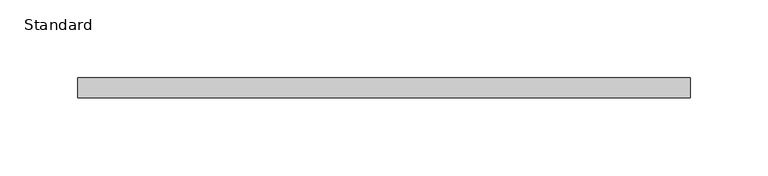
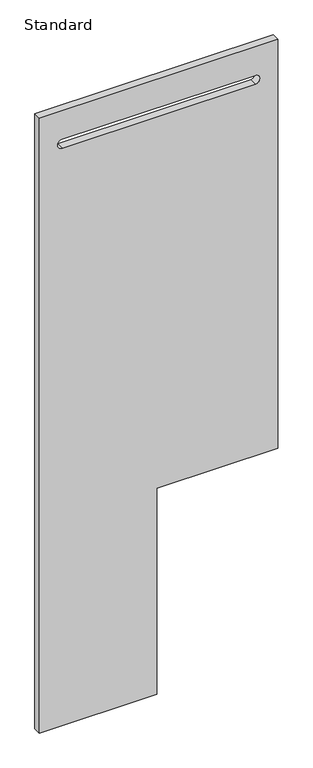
"""IFC4 building model written with IfcOpenShell, lengths in millimetres: furniture geometry, X_Locker-Duracube-Door : Standard."""

import ifcopenshell
import ifcopenshell.guid

model = None  # the IFC model being written
_history = None  # IfcOwnerHistory: only IFC2X3 demands one
_inside = {}  # id of a spatial element -> (the spatial element, [elements in it])
_under = {}  # id of a project, library or spatial element -> (it, [spatial elements below it])
_declared = {}  # id of a project -> (the project, [libraries it declares])
_typed = {}  # id of a type object -> (the type object, [elements of that type])
_made_of = {}  # id of a material, layer set ... -> (it, [elements and type objects made of it])


def new_model(schema):
    """Start an empty IFC model of exactly this schema.

    Asked for "IFC4X3", IfcOpenShell would pick the latest addendum, in which some entities
    have other attributes; the version numbers below select the first issue.
    IFC2X3 requires an IfcOwnerHistory on every rooted entity: one is made here for all.
    """
    global model, _history
    if schema == "IFC4X3":
        model = ifcopenshell.file(schema_version=(4, 3, 0, 0))
    else:
        model = ifcopenshell.file(schema=schema)
    _inside.clear()
    _under.clear()
    _declared.clear()
    _typed.clear()
    _made_of.clear()
    _history = None
    if model.schema == "IFC2X3":
        org = make("IfcOrganization", Name="unknown")
        user = make(
            "IfcPersonAndOrganization",
            ThePerson=make("IfcPerson", FamilyName="unknown"),
            TheOrganization=org,
        )
        app = make(
            "IfcApplication",
            ApplicationDeveloper=org,
            Version="unknown",
            ApplicationFullName="unknown",
            ApplicationIdentifier="unknown",
        )
        _history = make(
            "IfcOwnerHistory",
            OwningUser=user,
            OwningApplication=app,
            ChangeAction="ADDED",
            CreationDate=0,
        )
    return model


def make(cls, **values):
    """One entity of the class cls with the attributes given. An attribute that is None is left unset."""
    return model.create_entity(
        cls, **{name: value for name, value in values.items() if value is not None}
    )


def rooted(cls, **values):
    """An entity with a GlobalId (a new one), such as an element, a storey or a relation."""
    return make(cls, GlobalId=ifcopenshell.guid.new(), OwnerHistory=_history, **values)


def si_unit(unit_type, name, prefix=None):
    """IfcSIUnit, for example si_unit("LENGTHUNIT", "METRE", prefix="MILLI")."""
    return make("IfcSIUnit", UnitType=unit_type, Prefix=prefix, Name=name)


def assignment(units):
    """IfcUnitAssignment: the units of a project."""
    return None if units is None else make("IfcUnitAssignment", Units=units)


def point(xyz):
    """IfcCartesianPoint."""
    return None if xyz is None else make("IfcCartesianPoint", Coordinates=xyz)


def direction(xyz):
    """IfcDirection."""
    return None if xyz is None else make("IfcDirection", DirectionRatios=xyz)


def frame(location, z_axis=None, x_axis=None):
    """IfcAxis2Placement3D, a coordinate frame: its origin and axes. An axis left out is left unset."""
    return make(
        "IfcAxis2Placement3D",
        Location=point(location),
        Axis=direction(z_axis),
        RefDirection=direction(x_axis),
    )


def frame_2d(location, x_axis=None):
    """IfcAxis2Placement2D, a coordinate frame in the plane: its origin and x axis."""
    return make(
        "IfcAxis2Placement2D", Location=point(location), RefDirection=direction(x_axis)
    )


def origin():
    """The frame at (0, 0, 0) with its axes left unset."""
    return frame((0.0, 0.0, 0.0))


def place(relative_to, where):
    """IfcLocalPlacement: puts the frame where relative to a parent placement (None: the world)."""
    return make(
        "IfcLocalPlacement", PlacementRelTo=relative_to, RelativePlacement=where
    )


def context(
    kind, dimensions, precision=None, world=None, true_north=None, identifier=None
):
    """IfcGeometricRepresentationContext, for example the 3D "Model" context."""
    return make(
        "IfcGeometricRepresentationContext",
        ContextIdentifier=identifier,
        ContextType=kind,
        CoordinateSpaceDimension=dimensions,
        Precision=precision,
        WorldCoordinateSystem=world,
        TrueNorth=true_north,
    )


def project(units=None, contexts=None):
    """IfcProject with its units and contexts."""
    return rooted(
        "IfcProject",
        Name="project",
        RepresentationContexts=contexts,
        UnitsInContext=assignment(units),
    )


def spatial(cls, under=None, at=None, **own):
    """A site, building, storey or space (cls), placed at a placement, below another one or the project."""
    s = rooted(cls, ObjectPlacement=at, **own)
    if under is not None:
        _under.setdefault(under.id(), (under, []))[1].append(s)
    return s


def polyline(points):
    """IfcPolyline through the points."""
    return make("IfcPolyline", Points=[point(p) for p in points])


def circle_curve(where, radius):
    """IfcCircle in the frame where."""
    return make("IfcCircle", Position=where, Radius=radius)


def trimmed(basis, trim1, trim2, sense, master):
    """IfcTrimmedCurve: the piece of a basis curve between two trims."""
    return make(
        "IfcTrimmedCurve",
        BasisCurve=basis,
        Trim1=trim1,
        Trim2=trim2,
        SenseAgreement=sense,
        MasterRepresentation=master,
    )


def segment(curve, same_sense, transition):
    """IfcCompositeCurveSegment."""
    return make(
        "IfcCompositeCurveSegment",
        Transition=transition,
        SameSense=same_sense,
        ParentCurve=curve,
    )


def composite_curve(segments, self_intersect=None):
    """IfcCompositeCurve: segments joined end to end."""
    return make("IfcCompositeCurve", Segments=segments, SelfIntersect=self_intersect)


def outline(outer, holes=None, kind="AREA"):
    """IfcArbitraryClosedProfileDef: a profile drawn as a closed curve; with holes, ...WithVoids."""
    if holes is None:
        return make("IfcArbitraryClosedProfileDef", ProfileType=kind, OuterCurve=outer)
    return make(
        "IfcArbitraryProfileDefWithVoids",
        ProfileType=kind,
        OuterCurve=outer,
        InnerCurves=holes,
    )


def extrude(swept, where, along, depth):
    """IfcExtrudedAreaSolid: the profile swept, set in the frame where, extruded along a direction by depth."""
    return make(
        "IfcExtrudedAreaSolid",
        SweptArea=swept,
        Position=where,
        ExtrudedDirection=direction(along),
        Depth=depth,
    )


def shape(context_of_items, identifier, shape_type, items):
    """IfcShapeRepresentation: the items that make up one representation, for example the "Body"."""
    return make(
        "IfcShapeRepresentation",
        ContextOfItems=context_of_items,
        RepresentationIdentifier=identifier,
        RepresentationType=shape_type,
        Items=items,
    )


def source(mapping_origin, context_of_items, identifier, shape_type, items):
    """IfcRepresentationMap: a shape defined once, which mapped items show again and again."""
    return make(
        "IfcRepresentationMap",
        MappingOrigin=mapping_origin,
        MappedRepresentation=shape(context_of_items, identifier, shape_type, items),
    )


def transform(
    local_origin,
    x_axis=None,
    y_axis=None,
    z_axis=None,
    scale=None,
    scale2=None,
    scale3=None,
    uniform=True,
):
    """IfcCartesianTransformationOperator3D, or its non-uniform kind. x_axis, y_axis, z_axis: its Axis1, 2, 3."""
    if uniform:
        return make(
            "IfcCartesianTransformationOperator3D",
            Axis1=direction(x_axis),
            Axis2=direction(y_axis),
            LocalOrigin=point(local_origin),
            Scale=scale,
            Axis3=direction(z_axis),
        )
    return make(
        "IfcCartesianTransformationOperator3DnonUniform",
        Axis1=direction(x_axis),
        Axis2=direction(y_axis),
        LocalOrigin=point(local_origin),
        Scale=scale,
        Axis3=direction(z_axis),
        Scale2=scale2,
        Scale3=scale3,
    )


def mapped(mapping_source, mapping_target):
    """IfcMappedItem: shows the shape of a source again, moved by a transform."""
    return make(
        "IfcMappedItem", MappingSource=mapping_source, MappingTarget=mapping_target
    )


def made_of(thing, what):
    """Note that an element or type object is made of a material, layer set ...; save() writes the relation."""
    if what is not None:
        _made_of.setdefault(what.id(), (what, []))[1].append(thing)
    return thing


def element(
    cls,
    number,
    at=None,
    inside=None,
    cuts=None,
    type_object=None,
    material=None,
    context=None,
    identifier="Body",
    shape_type=None,
    held_by="IfcProductDefinitionShape",
    body=None,
    shapes=None,
    **own,
):
    """One element of the class cls, such as IfcWall. Its Tag is "e" and its number.

    at: its placement. inside: the storey or other place that contains it. cuts: it is an
    opening in that element (IfcRelVoidsElement). A single representation is given by context,
    identifier, shape_type and body (its items); several are given by shapes. held_by: the class
    of the entity that holds the representations. save() writes the other relations.
    """
    e = rooted(cls, Tag="e%d" % number, ObjectPlacement=at, **own)
    if body is not None:
        shapes = [shape(context, identifier, shape_type, body)]
    if shapes is not None:
        e.Representation = make(held_by, Representations=shapes)
    if inside is not None:
        _inside.setdefault(inside.id(), (inside, []))[1].append(e)
    if cuts is not None:
        rooted(
            "IfcRelVoidsElement", RelatingBuildingElement=cuts, RelatedOpeningElement=e
        )
    if type_object is not None:
        _typed.setdefault(type_object.id(), (type_object, []))[1].append(e)
    return made_of(e, material)


def aggregate(whole, parts):
    """IfcRelAggregates: a whole, such as a stair, and the parts it consists of."""
    return rooted("IfcRelAggregates", RelatingObject=whole, RelatedObjects=parts)


def save(model, path):
    """Write the relations noted so far, then the file.

    IfcRelAggregates (storeys below a building ...), IfcRelContainedInSpatialStructure (elements
    in a storey), IfcRelDefinesByType, IfcRelAssociatesMaterial and IfcRelDeclares: one each for
    every whole, place, type object, material and project.
    """
    for whole, parts in _under.values():
        aggregate(whole, parts)
    for where, things in _inside.values():
        rooted(
            "IfcRelContainedInSpatialStructure",
            RelatedElements=things,
            RelatingStructure=where,
        )
    for kind, things in _typed.values():
        rooted("IfcRelDefinesByType", RelatedObjects=things, RelatingType=kind)
    for what, things in _made_of.values():
        rooted("IfcRelAssociatesMaterial", RelatedObjects=things, RelatingMaterial=what)
    for by, libraries in _declared.values():
        rooted("IfcRelDeclares", RelatingContext=by, RelatedDefinitions=libraries)
    model.write(path)


def standard_4a91ac64(model_context):
    return source(origin(), model_context, "Body", "SweptSolid", [
        extrude(outline(polyline([(-357.0, 41.7003264), (3.0, 41.7003264), (3.0, 241.7003264), (717.0, 241.7003264), (717.0, -152.2996736), (-357.0, -152.2996736), (-357.0, 41.7003264)]), holes=[composite_curve([segment(polyline([(667.0, -114.7996736), (667.0, 204.2003264)]), True, "CONTINUOUS"), segment(trimmed(circle_curve(frame_2d((659.5, 204.2003264)), 7.5), [point((667.0, 204.2003264))], [point((652.0, 204.2003264))], True, "CARTESIAN"), True, "CONTINUOUS"), segment(polyline([(652.0, 204.2003264), (652.0, -114.7996736)]), True, "CONTINUOUS"), segment(trimmed(circle_curve(frame_2d((659.5, -114.7996736)), 7.5), [point((652.0, -114.7996736))], [point((667.0, -114.7996736))], True, "CARTESIAN"), True, "CONTINUOUS")], self_intersect=False)]), frame((0.0, -13.0, 0.0), z_axis=(0.0, 1.0, 0.0), x_axis=(0.0, 0.0, 1.0)), (0.0, 0.0, 1.0), 13.0),
    ])


if __name__ == "__main__":
    model = new_model("IFC4")
    model_context = context("Model", 3, world=origin())
    ifc_project = project(units=[si_unit("LENGTHUNIT", "METRE", prefix="MILLI")], contexts=[model_context])
    site = spatial("IfcSite", under=ifc_project)
    building = spatial("IfcBuilding", under=site)
    placement = place(None, origin())
    standard_shape = standard_4a91ac64(model_context)
    element("IfcFurniture", 1, ObjectType="X_Locker-Duracube-Door : Standard", at=placement, inside=building, context=model_context, shape_type="MappedRepresentation", body=[
        mapped(standard_shape, transform((0.0, 0.0, 0.0), x_axis=(1.0, 0.0, 0.0), y_axis=(0.0, 1.0, 0.0), z_axis=(0.0, 0.0, 1.0))),
    ])
    save(model, "model.ifc")
